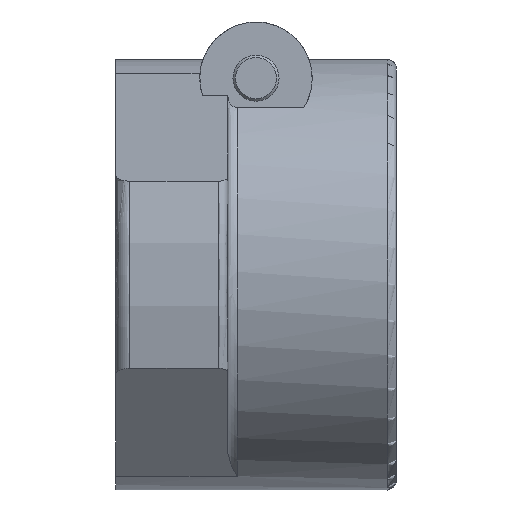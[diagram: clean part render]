
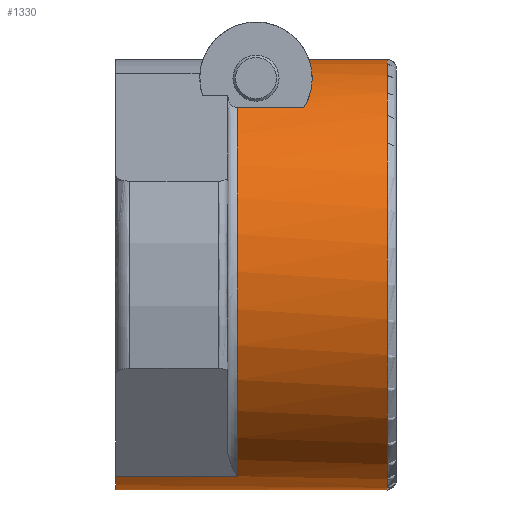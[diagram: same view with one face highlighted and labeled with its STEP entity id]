
A CAD part, front view. The second image highlights one B-rep face of the part: STEP entity #1330.
In plain terms, the highlighted cylindrical face has radius 23 mm (diameter 46 mm), a partial arc.
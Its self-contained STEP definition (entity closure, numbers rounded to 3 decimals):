
#633=CARTESIAN_POINT('',(0.0,8.101,-21.526));
#634=VERTEX_POINT('',#633);
#641=CARTESIAN_POINT('',(0.0,-8.101,-21.526));
#642=VERTEX_POINT('',#641);
#643=CARTESIAN_POINT('',(0.0,0.0,0.0));
#644=DIRECTION('',(1.0,0.0,0.0));
#645=DIRECTION('',(0.0,1.0,0.0));
#646=AXIS2_PLACEMENT_3D('',#643,#644,#645);
#647=CIRCLE('',#646,23.);
#648=EDGE_CURVE('',#642,#634,#647,.T.);
#1160=CARTESIAN_POINT('',(13.,-14.5,17.854));
#1161=VERTEX_POINT('',#1160);
#1189=CARTESIAN_POINT('',(13.,-8.101,-21.526));
#1190=VERTEX_POINT('',#1189);
#1198=CARTESIAN_POINT('',(13.,0.0,0.0));
#1199=DIRECTION('',(-1.0,0.0,0.0));
#1200=DIRECTION('',(0.0,-0.987,-0.16));
#1201=AXIS2_PLACEMENT_3D('',#1198,#1199,#1200);
#1202=CIRCLE('',#1201,23.);
#1203=EDGE_CURVE('',#1190,#1161,#1202,.T.);
#1215=CARTESIAN_POINT('',(20.109,-14.5,17.854));
#1216=VERTEX_POINT('',#1215);
#1217=CARTESIAN_POINT('',(20.109,-14.5,17.854));
#1218=DIRECTION('',(-1.0,0.0,0.0));
#1219=VECTOR('',#1218,7.109);
#1220=LINE('',#1217,#1219);
#1221=EDGE_CURVE('',#1216,#1161,#1220,.T.);
#1244=CARTESIAN_POINT('',(0.0,0.0,0.0));
#1245=DIRECTION('',(1.0,0.0,0.0));
#1246=DIRECTION('',(0.0,1.0,0.0));
#1247=AXIS2_PLACEMENT_3D('',#1244,#1245,#1246);
#1248=CYLINDRICAL_SURFACE('',#1247,23.);
#1249=ORIENTED_EDGE('',*,*,#1203,.F.);
#1250=CARTESIAN_POINT('',(0.0,-8.101,-21.526));
#1251=DIRECTION('',(1.0,0.0,0.0));
#1252=VECTOR('',#1251,13.);
#1253=LINE('',#1250,#1252);
#1254=EDGE_CURVE('',#642,#1190,#1253,.T.);
#1255=ORIENTED_EDGE('',*,*,#1254,.F.);
#1256=ORIENTED_EDGE('',*,*,#648,.T.);
#1257=CARTESIAN_POINT('',(13.,8.101,-21.526));
#1258=VERTEX_POINT('',#1257);
#1259=CARTESIAN_POINT('',(0.0,8.101,-21.526));
#1260=DIRECTION('',(1.0,0.0,0.0));
#1261=VECTOR('',#1260,13.);
#1262=LINE('',#1259,#1261);
#1263=EDGE_CURVE('',#634,#1258,#1262,.T.);
#1264=ORIENTED_EDGE('',*,*,#1263,.T.);
#1265=CARTESIAN_POINT('',(13.,17.134,15.343));
#1266=VERTEX_POINT('',#1265);
#1267=CARTESIAN_POINT('',(13.,0.0,0.0));
#1268=DIRECTION('',(-1.,0.0,0.0));
#1269=DIRECTION('',(0.0,0.974,-0.225));
#1270=AXIS2_PLACEMENT_3D('',#1267,#1268,#1269);
#1271=CIRCLE('',#1270,23.0);
#1272=EDGE_CURVE('',#1266,#1258,#1271,.T.);
#1273=ORIENTED_EDGE('',*,*,#1272,.F.);
#1274=CARTESIAN_POINT('',(15.0,17.436,15.));
#1275=VERTEX_POINT('',#1274);
#1276=CARTESIAN_POINT('',(13.,17.134,15.343));
#1277=CARTESIAN_POINT('',(13.425,17.269,15.193));
#1278=CARTESIAN_POINT('',(13.895,17.363,15.084));
#1279=CARTESIAN_POINT('',(14.358,17.406,15.034));
#1280=CARTESIAN_POINT('',(14.576,17.426,15.011));
#1281=CARTESIAN_POINT('',(14.792,17.436,15.0));
#1282=CARTESIAN_POINT('',(15.0,17.436,15.0));
#1283=B_SPLINE_CURVE_WITH_KNOTS('',3,(#1276,#1277,#1278,#1279,#1280,#1281,#1282),.UNSPECIFIED.,.F.,.U.,(4,3,4),(2.022,2.155,2.218),.UNSPECIFIED.);
#1284=EDGE_CURVE('',#1266,#1275,#1283,.T.);
#1285=ORIENTED_EDGE('',*,*,#1284,.T.);
#1286=CARTESIAN_POINT('',(29.,17.436,15.));
#1287=VERTEX_POINT('',#1286);
#1288=CARTESIAN_POINT('',(15.0,17.436,15.));
#1289=DIRECTION('',(1.0,0.0,0.0));
#1290=VECTOR('',#1289,14.);
#1291=LINE('',#1288,#1290);
#1292=EDGE_CURVE('',#1275,#1287,#1291,.T.);
#1293=ORIENTED_EDGE('',*,*,#1292,.T.);
#1294=CARTESIAN_POINT('',(29.,-1.,22.978));
#1295=VERTEX_POINT('',#1294);
#1296=CARTESIAN_POINT('',(29.,0.0,0.0));
#1297=DIRECTION('',(1.,0.0,0.0));
#1298=DIRECTION('',(0.0,-0.397,-0.918));
#1299=AXIS2_PLACEMENT_3D('',#1296,#1297,#1298);
#1300=CIRCLE('',#1299,23.);
#1301=EDGE_CURVE('',#1295,#1287,#1300,.T.);
#1302=ORIENTED_EDGE('',*,*,#1301,.F.);
#1303=CARTESIAN_POINT('',(20.664,-1.,22.978));
#1304=VERTEX_POINT('',#1303);
#1305=CARTESIAN_POINT('',(29.,-1.,22.978));
#1306=DIRECTION('',(-1.0,0.0,0.0));
#1307=VECTOR('',#1306,8.336);
#1308=LINE('',#1305,#1307);
#1309=EDGE_CURVE('',#1295,#1304,#1308,.T.);
#1310=ORIENTED_EDGE('',*,*,#1309,.T.);
#1311=CARTESIAN_POINT('',(20.664,-1.,22.978));
#1312=CARTESIAN_POINT('',(20.684,-2.314,22.921));
#1313=CARTESIAN_POINT('',(20.748,-3.652,22.748));
#1314=CARTESIAN_POINT('',(20.82,-4.969,22.457));
#1315=CARTESIAN_POINT('',(20.907,-6.529,22.112));
#1316=CARTESIAN_POINT('',(21.005,-8.058,21.6));
#1317=CARTESIAN_POINT('',(21.,-9.491,20.951));
#1318=CARTESIAN_POINT('',(20.996,-10.599,20.449));
#1319=CARTESIAN_POINT('',(20.929,-11.65,19.865));
#1320=CARTESIAN_POINT('',(20.732,-12.622,19.227));
#1321=CARTESIAN_POINT('',(20.597,-13.287,18.791));
#1322=CARTESIAN_POINT('',(20.401,-13.915,18.329));
#1323=CARTESIAN_POINT('',(20.109,-14.5,17.854));
#1324=B_SPLINE_CURVE_WITH_KNOTS('',3,(#1311,#1312,#1313,#1314,#1315,#1316,#1317,#1318,#1319,#1320,#1321,#1322,#1323),.UNSPECIFIED.,.F.,.U.,(4,3,3,3,4),(4.534,4.924,5.386,5.743,5.988),.UNSPECIFIED.);
#1325=EDGE_CURVE('',#1304,#1216,#1324,.T.);
#1326=ORIENTED_EDGE('',*,*,#1325,.T.);
#1327=ORIENTED_EDGE('',*,*,#1221,.T.);
#1328=EDGE_LOOP('',(#1249,#1255,#1256,#1264,#1273,#1285,#1293,#1302,#1310,#1326,#1327));
#1329=FACE_OUTER_BOUND('',#1328,.T.);
#1330=ADVANCED_FACE('',(#1329),#1248,.T.);
